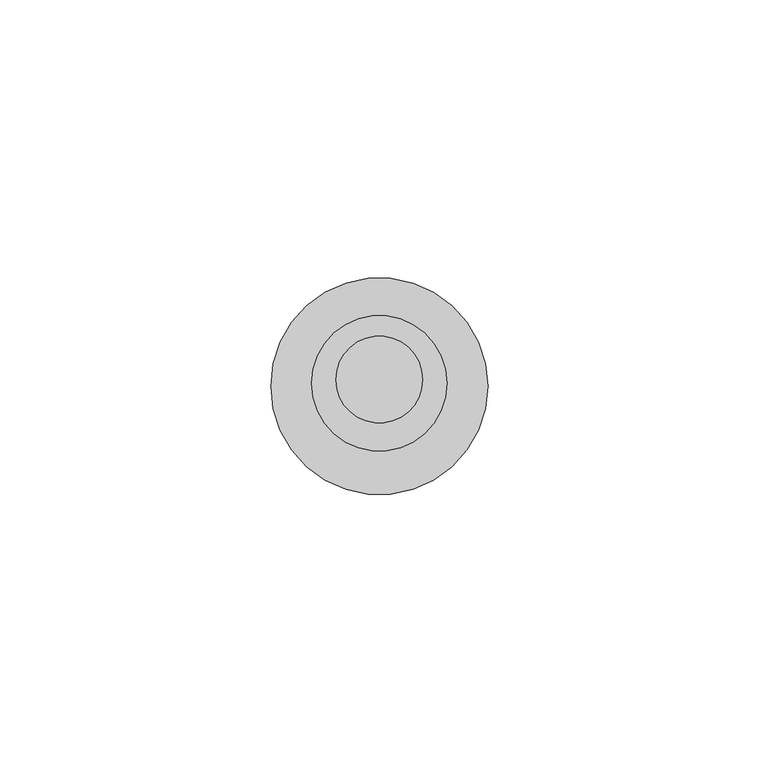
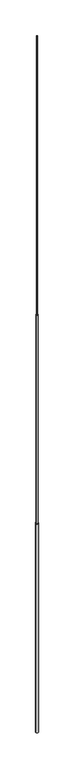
"""IFC4 building model written with IfcOpenShell, lengths in millimetres: proxy geometry, КНС_МачтаМолниеприемная_DKC : NL1100_СтальНержавеющая_10м."""

from ifc_helpers import new_model, si_unit, point, frame, origin, origin_with_axes, origin_2d, place, context, project, spatial, circle_curve, trimmed, segment, composite_curve, outline, extrude, source, transform, mapped, element, save


def security_devices_ee13a812(model_context):
    return source(origin(), model_context, "Body", "SweptSolid", [
        extrude(outline(composite_curve([segment(trimmed(circle_curve(origin_2d(), 8.0), [point((-8.0, 0.0))], [point((8.0, 0.0))], False, "CARTESIAN"), True, "CONTINUOUS"), segment(trimmed(circle_curve(origin_2d(), 8.0), [point((8.0, 0.0))], [point((-8.0, 0.0))], False, "CARTESIAN"), True, "CONTINUOUS")], self_intersect=False)), frame((0.0, 0.0, 6000.0), z_axis=(0.0, 0.0, 1.0), x_axis=(1.0, 0.0, 0.0)), (0.0, 0.0, 1.0), 4000.0),
        extrude(outline(composite_curve([segment(trimmed(circle_curve(origin_2d(), 12.5), [point((-12.5, 0.0))], [point((12.5, 0.0))], False, "CARTESIAN"), True, "CONTINUOUS"), segment(trimmed(circle_curve(origin_2d(), 12.5), [point((12.5, 0.0))], [point((-12.5, 0.0))], False, "CARTESIAN"), True, "CONTINUOUS")], self_intersect=False)), frame((0.0, 0.0, 3000.0), z_axis=(0.0, 0.0, 1.0), x_axis=(1.0, 0.0, 0.0)), (0.0, 0.0, 1.0), 3000.0),
        extrude(outline(composite_curve([segment(trimmed(circle_curve(origin_2d(), 20.0), [point((-20.0, 0.0))], [point((20.0, 0.0))], False, "CARTESIAN"), True, "CONTINUOUS"), segment(trimmed(circle_curve(origin_2d(), 20.0), [point((20.0, 0.0))], [point((-20.0, 0.0))], False, "CARTESIAN"), True, "CONTINUOUS")], self_intersect=False)), origin_with_axes(), (0.0, 0.0, 1.0), 3000.0),
    ])


if __name__ == "__main__":
    model = new_model("IFC4")
    model_context = context("Model", 3, world=origin())
    ifc_project = project(units=[si_unit("LENGTHUNIT", "METRE", prefix="MILLI")], contexts=[model_context])
    site = spatial("IfcSite", under=ifc_project)
    building = spatial("IfcBuilding", under=site)
    placement = place(None, origin())
    security_devices_shape = security_devices_ee13a812(model_context)
    element("IfcBuildingElementProxy", 1, Name="КНС_МачтаМолниеприемная_DKC : NL1100_СтальНержавеющая_10м", ObjectType="КНС_МачтаМолниеприемная_DKC : NL1100_СтальНержавеющая_10м", at=placement, inside=building, context=model_context, shape_type="MappedRepresentation", body=[
        mapped(security_devices_shape, transform((0.0, 0.0, 0.0), x_axis=(1.0, 0.0, 0.0), y_axis=(0.0, 1.0, 0.0), z_axis=(0.0, 0.0, 1.0))),
    ])
    save(model, "model.ifc")
